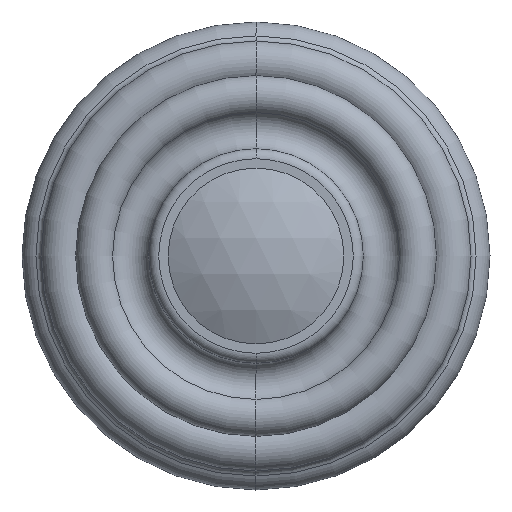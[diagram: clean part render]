
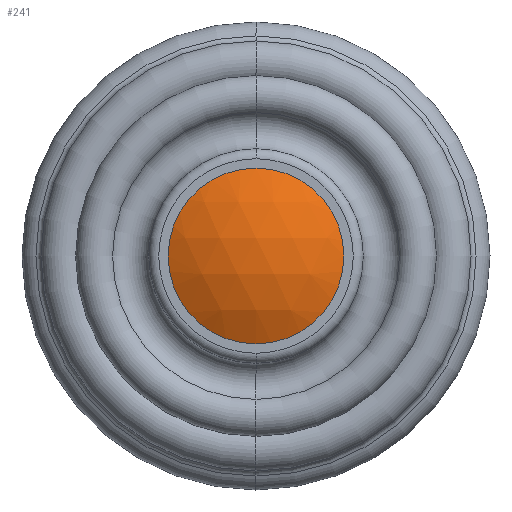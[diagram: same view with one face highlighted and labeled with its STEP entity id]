
A CAD part, front view. The second image highlights one B-rep face of the part: STEP entity #241.
In plain terms, the highlighted spherical face has radius 9.509 mm.
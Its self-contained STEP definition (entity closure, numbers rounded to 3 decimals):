
#231 = EDGE_CURVE( '', #315, #283, #624, .T. );
#241 = ADVANCED_FACE( '', ( #635 ), #636, .T. );
#283 = VERTEX_POINT( '', #684 );
#315 = VERTEX_POINT( '', #718 );
#409 = EDGE_CURVE( '', #283, #315, #825, .T. );
#624 = CIRCLE( '', #1059, 4.6 );
#635 = FACE_OUTER_BOUND( '', #1071, .T. );
#636 = SPHERICAL_SURFACE( '', #1072, 9.509 );
#684 = CARTESIAN_POINT( '', ( 0., -19.463, -4.6 ) );
#718 = CARTESIAN_POINT( '', ( 0., -19.463, 4.6 ) );
#825 = CIRCLE( '', #1306, 4.6 );
#1059 = AXIS2_PLACEMENT_3D( '', #1590, #1591, #1592 );
#1071 = EDGE_LOOP( '', ( #1605, #1606 ) );
#1072 = AXIS2_PLACEMENT_3D( '', #1607, #1608, #1609 );
#1306 = AXIS2_PLACEMENT_3D( '', #1881, #1882, #1883 );
#1590 = CARTESIAN_POINT( '', ( 0., -19.463, 0. ) );
#1591 = DIRECTION( '', ( 0., -1., 0. ) );
#1592 = DIRECTION( '', ( 0., 0., 1. ) );
#1605 = ORIENTED_EDGE( '', *, *, #231, .T. );
#1606 = ORIENTED_EDGE( '', *, *, #409, .T. );
#1607 = CARTESIAN_POINT( '', ( 0., -11.141, 0. ) );
#1608 = DIRECTION( '', ( 0., 0., 1. ) );
#1609 = DIRECTION( '', ( 1., 0., 0. ) );
#1881 = CARTESIAN_POINT( '', ( 0., -19.463, 0. ) );
#1882 = DIRECTION( '', ( 0., -1., 0. ) );
#1883 = DIRECTION( '', ( 0., 0., 1. ) );
